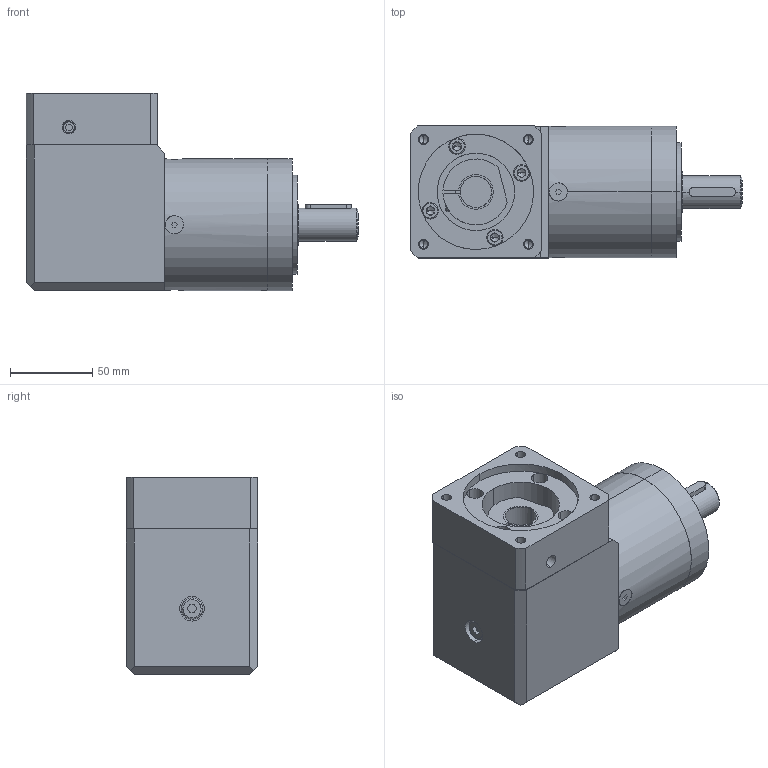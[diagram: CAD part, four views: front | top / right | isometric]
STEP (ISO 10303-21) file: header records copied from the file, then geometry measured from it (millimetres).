
FILE_DESCRIPTION (( 'STEP AP214' ), '1' );
FILE_NAME ('GBPNR-0802-CS-XXX-BLK32-748.STEP', '2015-05-15T15:39:31', ( '' ), ( '' ), 'SwSTEP 2.0', 'SolidWorks 2015', '' );
FILE_SCHEMA (( 'AUTOMOTIVE_DESIGN' ));
Length unit declared in the file: inch
Products named in the file (4): socket head cap screw_am_B18.3.1M - 6 x 1.0 x 16 Hex SHCS -- 16SHX; BLK32-748 adaptor plate for GBPNR-080X series; WPLE80, 2 Stage, mb_3003; GBPNR-0802-CS-XXX-BLK32-748
Assembly tree (6 placements, depth 2):
  GBPNR-0802-CS-XXX-BLK32-748
    WPLE80, 2 Stage, mb_3003
    BLK32-748 adaptor plate for GBPNR-080X series
    socket head cap screw_am_B18.3.1M - 6 x 1.0 x 16 Hex SHCS -- 16SHX  x4
Bounding box: 201.5 x 80 x 119.7 mm (x, y, z)
Volume: 117924.8 mm3; surface area: 106033.3 mm2
Topology: 5 solids, 15 shells, 726 faces, 1819 edges, 1136 vertices
Faces by surface type: cone 278, cylinder 263, plane 171, torus 8, bspline 6
Entity records: 13481 total; most frequent: CARTESIAN_POINT 2673, DIRECTION 2084, ORIENTED_EDGE 1790, EDGE_CURVE 913, AXIS2_PLACEMENT_3D 817, VERTEX_POINT 587, VECTOR 450, LINE 450
